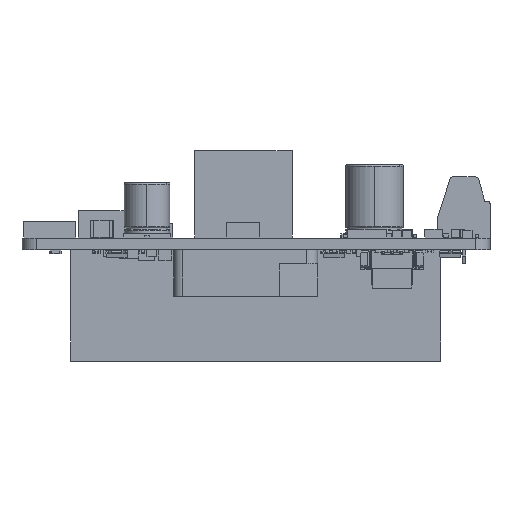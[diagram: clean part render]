
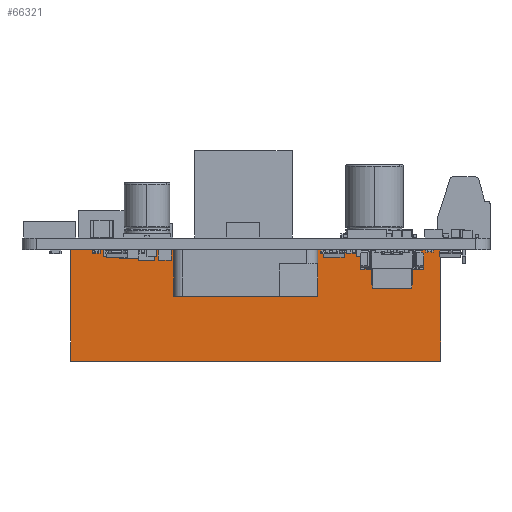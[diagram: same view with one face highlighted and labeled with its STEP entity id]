
A CAD part, front view. The second image highlights one B-rep face of the part: STEP entity #66321.
In plain terms, the highlighted planar face has unit normal (0, -1, 0).
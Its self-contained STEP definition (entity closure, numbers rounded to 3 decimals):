
#3181=DIRECTION('',(-1.,0.,0.));
#3182=VECTOR('',#3181,51.4);
#3183=CARTESIAN_POINT('',(54.58,20.58,0.));
#3184=LINE('',#3183,#3182);
#7322=DIRECTION('',(0.,0.,-1.));
#7323=VECTOR('',#7322,15.5);
#7324=CARTESIAN_POINT('',(54.58,20.58,0.));
#7325=LINE('',#7324,#7323);
#7343=DIRECTION('',(0.,0.,-1.));
#7344=VECTOR('',#7343,15.5);
#7345=CARTESIAN_POINT('',(3.18,20.58,0.));
#7346=LINE('',#7345,#7344);
#7350=DIRECTION('',(-1.,0.,0.));
#7351=VECTOR('',#7350,51.4);
#7352=CARTESIAN_POINT('',(54.58,20.58,-15.5));
#7353=LINE('',#7352,#7351);
#53890=CARTESIAN_POINT('',(54.58,20.58,-15.5));
#53891=CARTESIAN_POINT('',(3.18,20.58,-15.5));
#53892=VERTEX_POINT('',#53890);
#53893=VERTEX_POINT('',#53891);
#54858=CARTESIAN_POINT('',(54.58,20.58,0.));
#54859=CARTESIAN_POINT('',(3.18,20.58,0.));
#54860=VERTEX_POINT('',#54858);
#54861=VERTEX_POINT('',#54859);
#66307=CARTESIAN_POINT('',(54.58,20.58,0.));
#66308=DIRECTION('',(0.,-1.,0.));
#66309=DIRECTION('',(-1.,0.,0.));
#66310=AXIS2_PLACEMENT_3D('',#66307,#66308,#66309);
#66311=PLANE('',#66310);
#66312=ORIENTED_EDGE('',*,*,#63262,.F.);
#66314=ORIENTED_EDGE('',*,*,#66313,.T.);
#66316=ORIENTED_EDGE('',*,*,#66315,.T.);
#66318=ORIENTED_EDGE('',*,*,#66317,.F.);
#66319=EDGE_LOOP('',(#66312,#66314,#66316,#66318));
#66320=FACE_OUTER_BOUND('',#66319,.F.);
#66321=ADVANCED_FACE('',(#66320),#66311,.T.);
#63262=EDGE_CURVE('',#54860,#54861,#3184,.T.);
#66313=EDGE_CURVE('',#54860,#53892,#7325,.T.);
#66315=EDGE_CURVE('',#53892,#53893,#7353,.T.);
#66317=EDGE_CURVE('',#54861,#53893,#7346,.T.);
